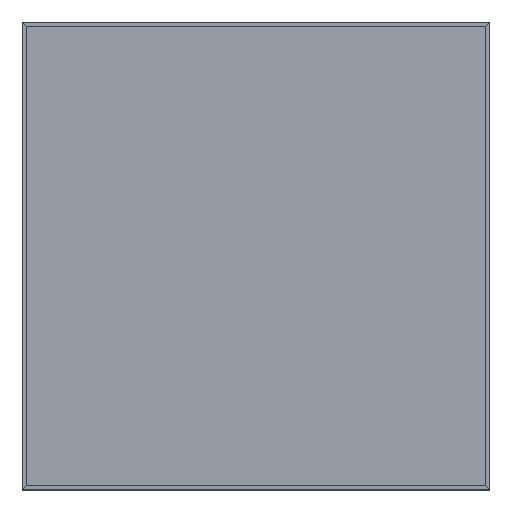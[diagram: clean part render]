
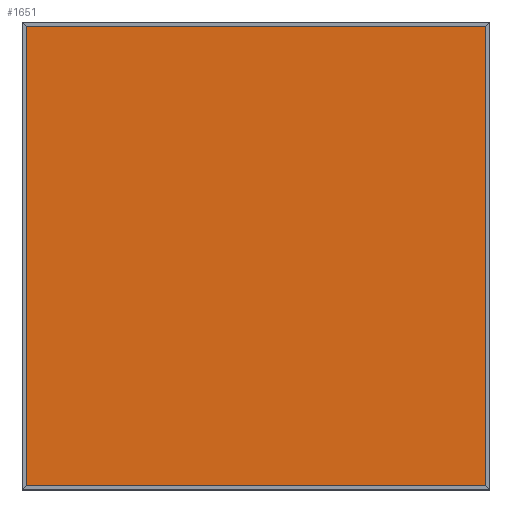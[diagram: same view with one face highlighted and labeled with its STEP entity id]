
A CAD part, top view. The second image highlights one B-rep face of the part: STEP entity #1651.
In plain terms, the highlighted planar face has unit normal (0, 0, 1).
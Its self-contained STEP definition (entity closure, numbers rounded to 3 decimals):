
#73=FACE_OUTER_BOUND('',#173,.T.);
#173=EDGE_LOOP('',(#1158,#1159,#1160,#1161));
#310=LINE('',#2415,#521);
#313=LINE('',#2420,#524);
#315=LINE('',#2424,#526);
#317=LINE('',#2427,#528);
#521=VECTOR('',#1996,10.);
#524=VECTOR('',#2001,10.);
#526=VECTOR('',#2005,10.);
#528=VECTOR('',#2009,10.);
#696=VERTEX_POINT('',#2413);
#697=VERTEX_POINT('',#2414);
#698=VERTEX_POINT('',#2419);
#699=VERTEX_POINT('',#2423);
#855=EDGE_CURVE('',#696,#697,#310,.T.);
#858=EDGE_CURVE('',#696,#698,#313,.T.);
#860=EDGE_CURVE('',#699,#697,#315,.T.);
#862=EDGE_CURVE('',#698,#699,#317,.T.);
#1158=ORIENTED_EDGE('',*,*,#862,.T.);
#1159=ORIENTED_EDGE('',*,*,#860,.T.);
#1160=ORIENTED_EDGE('',*,*,#855,.F.);
#1161=ORIENTED_EDGE('',*,*,#858,.T.);
#1451=PLANE('',#1777);
#1651=ADVANCED_FACE('',(#73),#1451,.T.);
#1777=AXIS2_PLACEMENT_3D('',#2428,#2010,#2011);
#1996=DIRECTION('',(0.,1.,0.));
#2001=DIRECTION('',(1.,0.,0.));
#2005=DIRECTION('',(-1.,0.,0.));
#2009=DIRECTION('',(0.,1.,0.));
#2010=DIRECTION('center_axis',(0.,0.,1.));
#2011=DIRECTION('ref_axis',(1.,0.,0.));
#2413=CARTESIAN_POINT('',(-564.3,-564.3,350.));
#2414=CARTESIAN_POINT('',(-564.3,564.3,350.));
#2415=CARTESIAN_POINT('',(-564.3,-564.3,350.));
#2419=CARTESIAN_POINT('',(564.3,-564.3,350.));
#2420=CARTESIAN_POINT('',(-564.3,-564.3,350.));
#2423=CARTESIAN_POINT('',(564.3,564.3,350.));
#2424=CARTESIAN_POINT('',(564.3,564.3,350.));
#2427=CARTESIAN_POINT('',(564.3,-564.3,350.));
#2428=CARTESIAN_POINT('Origin',(-564.3,-564.3,350.));
